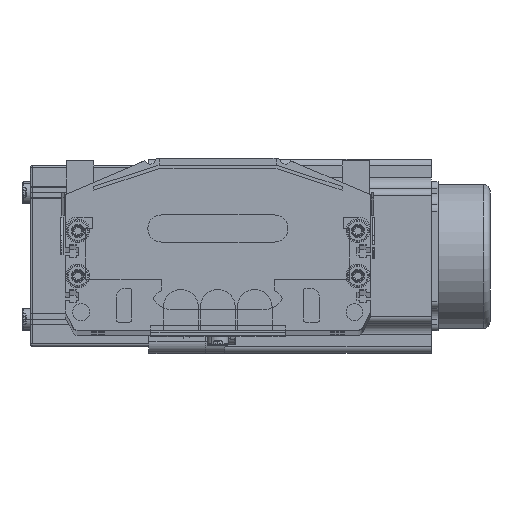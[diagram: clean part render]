
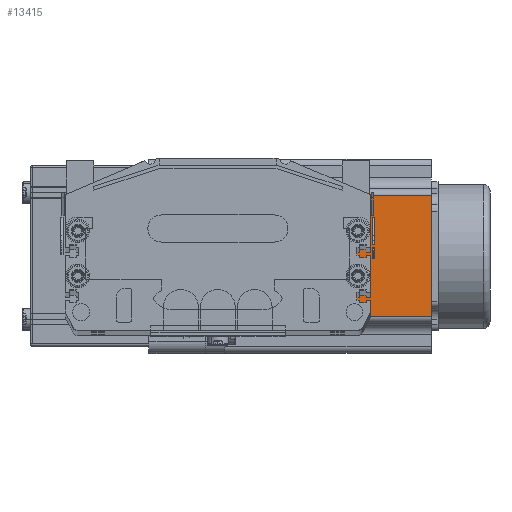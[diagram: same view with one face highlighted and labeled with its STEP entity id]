
A CAD part, top view. The second image highlights one B-rep face of the part: STEP entity #13415.
In plain terms, the highlighted planar face has unit normal (0, 0, 1) as drawn and (-1, 0, 0) by its records, which use the part's own axes.
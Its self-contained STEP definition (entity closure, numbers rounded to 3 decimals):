
#6863 = CARTESIAN_POINT ( 'NONE',  ( 0., 16.16, 0. ) ) ;
#9530 = VECTOR ( 'NONE', #9919, 1000. ) ;
#9542 = CARTESIAN_POINT ( 'NONE',  ( 0., 0., 0. ) ) ;
#9555 = LINE ( 'NONE', #9542, #9530 ) ;
#9919 = DIRECTION ( 'NONE',  ( 0., -1., 0. ) ) ;
#11899 = CARTESIAN_POINT ( 'NONE',  ( 0., 69.74, 91.5 ) ) ;
#11913 = DIRECTION ( 'NONE',  ( 0., -1., 0. ) ) ;
#11915 = VECTOR ( 'NONE', #11913, 1000. ) ;
#11916 = CARTESIAN_POINT ( 'NONE',  ( 0., 0., 91.5 ) ) ;
#11938 = LINE ( 'NONE', #11916, #11915 ) ;
#12130 = CARTESIAN_POINT ( 'NONE',  ( 0., 69.74, 0. ) ) ;
#12641 = DIRECTION ( 'NONE',  ( 0., 0., 1. ) ) ;
#12642 = VECTOR ( 'NONE', #12641, 1000. ) ;
#12900 = CARTESIAN_POINT ( 'NONE',  ( 0., 16.16, 91.5 ) ) ;
#12901 = LINE ( 'NONE', #12900, #12642 ) ;
#13219 = ORIENTED_EDGE ( 'NONE', *, *, #35034, .T. ) ;
#13257 = EDGE_CURVE ( 'NONE', #34835, #34921, #65197, .T. ) ;
#13300 = VERTEX_POINT ( 'NONE', #65036 ) ;
#13415 = ADVANCED_FACE ( 'NONE', ( #65236 ), #65048, .F. ) ;
#32673 = VERTEX_POINT ( 'NONE', #6863 ) ;
#34832 = ORIENTED_EDGE ( 'NONE', *, *, #34840, .F. ) ;
#34835 = VERTEX_POINT ( 'NONE', #11899 ) ;
#34838 = ORIENTED_EDGE ( 'NONE', *, *, #35373, .T. ) ;
#34840 = EDGE_CURVE ( 'NONE', #34835, #13300, #11938, .T. ) ;
#34921 = VERTEX_POINT ( 'NONE', #12130 ) ;
#35031 = EDGE_LOOP ( 'NONE', ( #13219, #34838, #34832, #35036 ) ) ;
#35034 = EDGE_CURVE ( 'NONE', #34921, #32673, #9555, .T. ) ;
#35036 = ORIENTED_EDGE ( 'NONE', *, *, #13257, .T. ) ;
#35373 = EDGE_CURVE ( 'NONE', #32673, #13300, #12901, .T. ) ;
#65036 = CARTESIAN_POINT ( 'NONE',  ( 0., 16.16, 91.5 ) ) ;
#65048 = PLANE ( 'NONE',  #65150 ) ;
#65150 = AXIS2_PLACEMENT_3D ( 'NONE', #65161, #65160, #65159 ) ;
#65159 = DIRECTION ( 'NONE',  ( 0., 0., -1. ) ) ;
#65160 = DIRECTION ( 'NONE',  ( 1., 0., 0. ) ) ;
#65161 = CARTESIAN_POINT ( 'NONE',  ( 0., 0., 91.5 ) ) ;
#65194 = DIRECTION ( 'NONE',  ( 0., 0., -1. ) ) ;
#65195 = VECTOR ( 'NONE', #65194, 1000. ) ;
#65196 = CARTESIAN_POINT ( 'NONE',  ( 0., 69.74, 91.5 ) ) ;
#65197 = LINE ( 'NONE', #65196, #65195 ) ;
#65236 = FACE_OUTER_BOUND ( 'NONE', #35031, .T. ) ;
